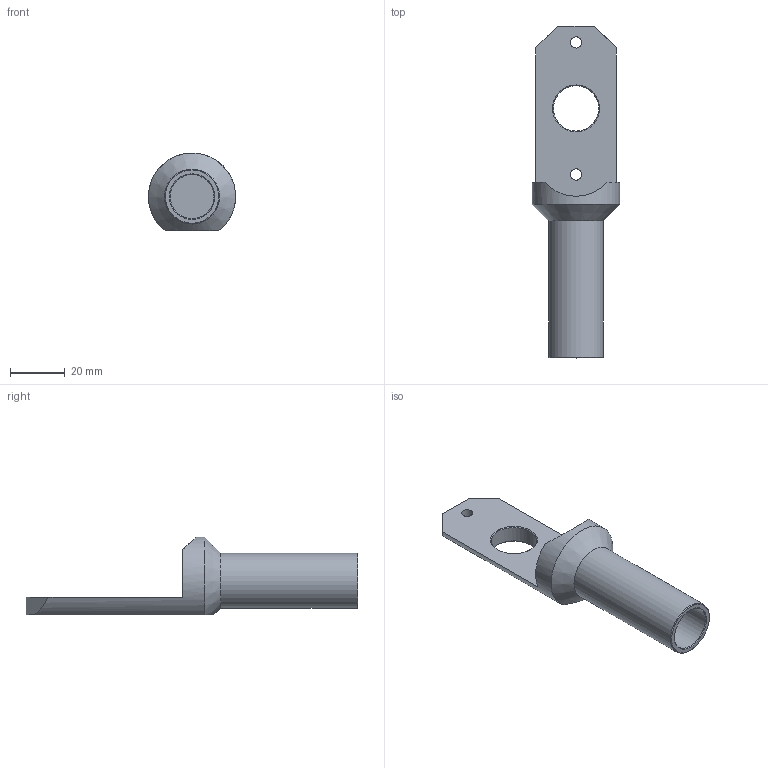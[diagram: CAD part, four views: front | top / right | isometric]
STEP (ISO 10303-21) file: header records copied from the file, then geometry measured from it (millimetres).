
FILE_DESCRIPTION(/* description */ ('Adapter For Cylinder CYL / CYLB'),/* implementation_level */ '2;1');
FILE_NAME(/* name */ 'ACY-32-20-50.STEP',/* time_stamp */ '2026-02-10T14:02:02-05:00',/* author */ ('Design2'),/* organization */ ('CCS Design LLC'),/* preprocessor_version */ 'ST-DEVELOPER v20',/* originating_system */ 'Autodesk Inventor 2025',/* authorisation */ '');
FILE_SCHEMA (('AUTOMOTIVE_DESIGN { 1 0 10303 214 3 1 1 }'));
Length unit declared in the file: inch
Products named in the file (1): ACY-32-20-50
Bounding box: 31.73 x 120.88 x 28.37 mm (x, y, z)
Volume: 22676.4 mm3; surface area: 11283.1 mm2
Topology: 1 solids, 1 shells, 21 faces, 51 edges, 33 vertices
Faces by surface type: plane 9, cylinder 7, cone 5
Full cylindrical faces by diameter (mm): 4.14 x2, 16 x1, 16.5 x1, 20 x1
Entity records: 699 total; most frequent: CARTESIAN_POINT 129, DIRECTION 116, ORIENTED_EDGE 102, EDGE_CURVE 51, AXIS2_PLACEMENT_3D 45, VERTEX_POINT 33, EDGE_LOOP 28, LINE 26
